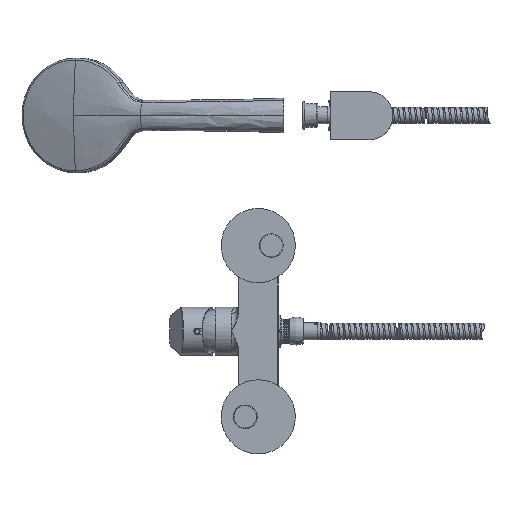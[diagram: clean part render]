
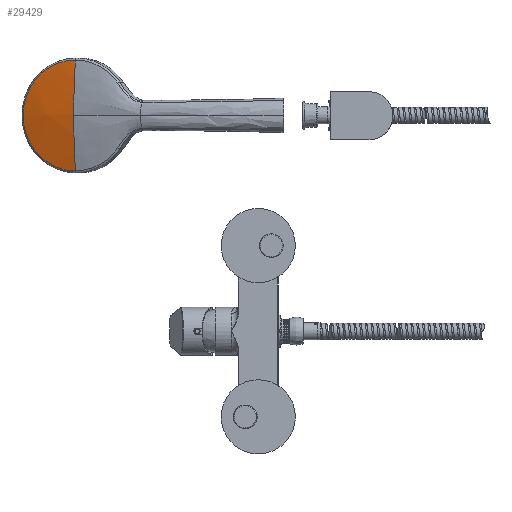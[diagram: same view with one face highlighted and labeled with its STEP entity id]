
A CAD part, left-side view. The second image highlights one B-rep face of the part: STEP entity #29429.
In plain terms, the highlighted spherical face has radius 282.812 mm.
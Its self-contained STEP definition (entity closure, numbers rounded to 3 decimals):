
#254=SPHERICAL_SURFACE('',#31862,282.813);
#2776=CIRCLE('',#31854,282.813);
#2777=CIRCLE('',#31855,282.813);
#2781=CIRCLE('',#31861,48.594);
#4351=FACE_OUTER_BOUND('',#6063,.T.);
#6063=EDGE_LOOP('',(#26061,#26062,#26063));
#13588=VERTEX_POINT('',#102585);
#13590=VERTEX_POINT('',#102624);
#13591=VERTEX_POINT('',#102739);
#17733=EDGE_CURVE('',#13588,#13590,#2776,.T.);
#17734=EDGE_CURVE('',#13588,#13591,#2777,.T.);
#17756=EDGE_CURVE('',#13590,#13591,#2781,.T.);
#26061=ORIENTED_EDGE('',*,*,#17756,.T.);
#26062=ORIENTED_EDGE('',*,*,#17734,.F.);
#26063=ORIENTED_EDGE('',*,*,#17733,.T.);
#29429=ADVANCED_FACE('',(#4351),#254,.T.);
#31854=AXIS2_PLACEMENT_3D('',#102633,#38630,#38631);
#31855=AXIS2_PLACEMENT_3D('',#102740,#38632,#38633);
#31861=AXIS2_PLACEMENT_3D('',#103809,#38647,#38648);
#31862=AXIS2_PLACEMENT_3D('',#103810,#38649,#38650);
#38630=DIRECTION('center_axis',(0.339,0.941,0.));
#38631=DIRECTION('ref_axis',(-0.941,0.339,0.));
#38632=DIRECTION('center_axis',(-0.339,-0.941,0.));
#38633=DIRECTION('ref_axis',(-0.941,0.339,0.));
#38647=DIRECTION('center_axis',(-0.941,0.339,0.));
#38648=DIRECTION('ref_axis',(0.,0.,
1.));
#38649=DIRECTION('center_axis',(0.,0.,-1.));
#38650=DIRECTION('ref_axis',(-0.339,-0.941,0.));
#102585=CARTESIAN_POINT('',(84.812,161.633,189.));
#102624=CARTESIAN_POINT('',(88.769,160.207,237.594));
#102633=CARTESIAN_POINT('Origin',(350.916,65.864,189.));
#102739=CARTESIAN_POINT('',(88.769,160.207,140.406));
#102740=CARTESIAN_POINT('Origin',(350.916,65.864,189.));
#103809=CARTESIAN_POINT('Origin',(88.769,160.208,189.));
#103810=CARTESIAN_POINT('Origin',(350.916,65.864,189.));
